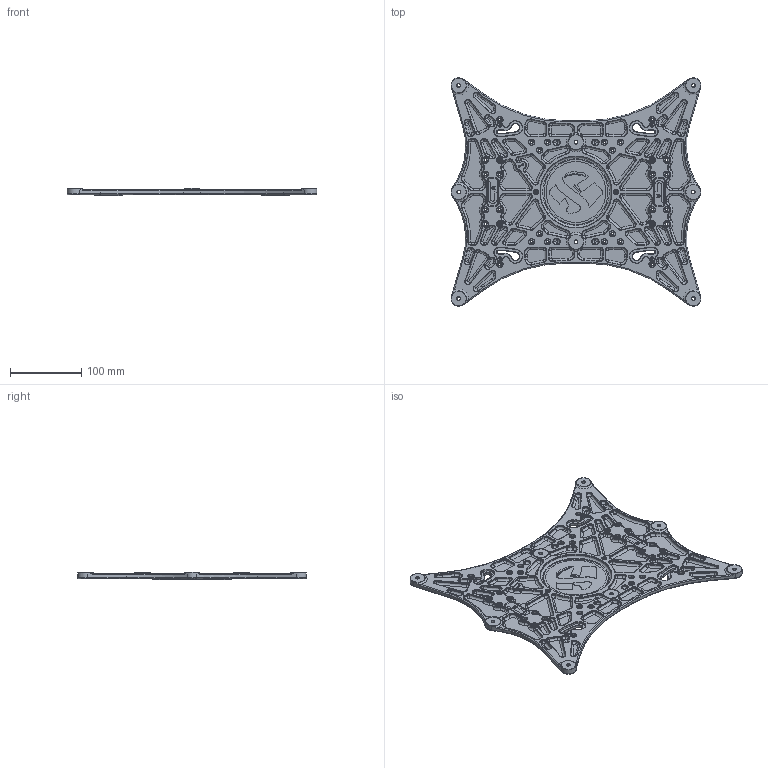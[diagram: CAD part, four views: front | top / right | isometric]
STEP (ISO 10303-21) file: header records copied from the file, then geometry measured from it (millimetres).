
FILE_DESCRIPTION(/* description */ (''),/* implementation_level */ '2;1');
FILE_NAME(/* name */ 'Y Carriage.step',/* time_stamp */ '2023-07-15T11:41:38+02:00',/* author */ (''),/* organization */ (''),/* preprocessor_version */ 'ST-DEVELOPER v19.2',/* originating_system */ 'Autodesk Translation Framework v12.6.0.85',/* authorisation */ '');
FILE_SCHEMA (('AUTOMOTIVE_DESIGN { 1 0 10303 214 3 1 1 }'));
Products named in the file (1): V4 Hybrid Bed
Bounding box: 351.5 x 321.48 x 10 mm (x, y, z)
Volume: 349072.5 mm3; surface area: 190382.8 mm2
Topology: 1 solids, 1 shells, 2818 faces, 6714 edges, 4004 vertices
Faces by surface type: cylinder 1041, torus 660, plane 611, bspline 414, cone 88, sphere 4
Full cylindrical faces by diameter (mm): 2.529 x10, 3.086 x6, 3.2 x18, 3.229 x12, 3.3 x8, 4.5 x8, 6.5 x2, 8 x32, 100 x1
Entity records: 92289 total; most frequent: CARTESIAN_POINT 27354, DIRECTION 14229, ORIENTED_EDGE 13430, EDGE_CURVE 6715, AXIS2_PLACEMENT_3D 5767, VERTEX_POINT 4004, CIRCLE 3362, EDGE_LOOP 3027
